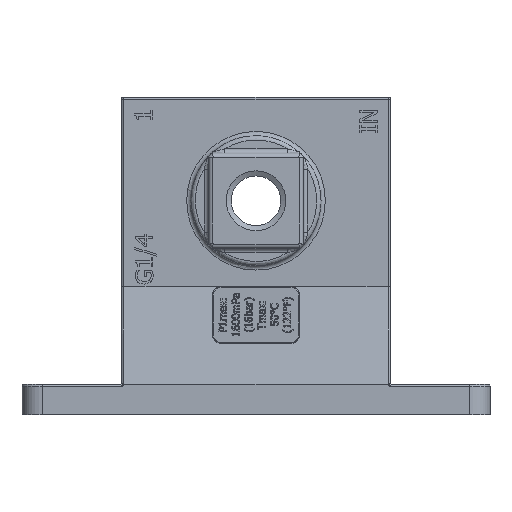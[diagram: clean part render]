
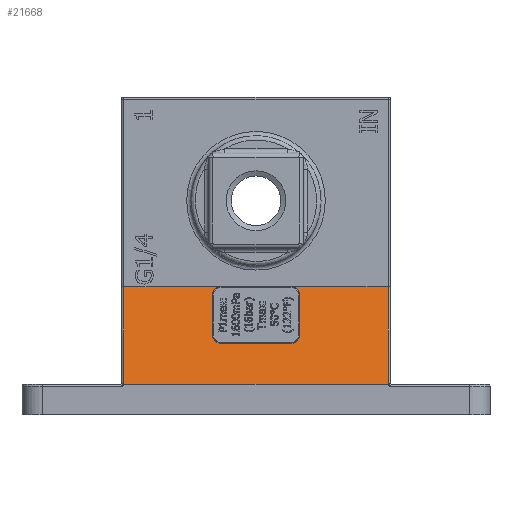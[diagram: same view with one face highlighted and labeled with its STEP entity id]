
A CAD part, front view. The second image highlights one B-rep face of the part: STEP entity #21668.
In plain terms, the highlighted planar face has unit normal (0, -0.978, 0.208).
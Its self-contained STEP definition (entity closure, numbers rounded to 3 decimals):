
#21255=CARTESIAN_POINT('',(-3.396,-6.252,-43.227));
#21256=VERTEX_POINT('',#21255);
#21274=CARTESIAN_POINT('',(-1.9,-6.68,-45.239));
#21275=VERTEX_POINT('',#21274);
#21283=CARTESIAN_POINT('',(-4.,-6.68,-45.239));
#21284=DIRECTION('',(0.,-0.978,0.208));
#21285=DIRECTION('',(0.,0.208,0.978));
#21286=AXIS2_PLACEMENT_3D('',#21283,#21284,#21285);
#21287=ELLIPSE('',#21286,2.147,2.1);
#21288=EDGE_CURVE('',#21275,#21256,#21287,.T.);
#21300=CARTESIAN_POINT('',(-1.9,-8.593,-54.239));
#21301=VERTEX_POINT('',#21300);
#21309=CARTESIAN_POINT('',(-1.9,-8.593,-54.239));
#21310=DIRECTION('',(0.,0.208,0.978));
#21311=VECTOR('',#21310,9.201);
#21312=LINE('',#21309,#21311);
#21313=EDGE_CURVE('',#21301,#21275,#21312,.T.);
#21358=CARTESIAN_POINT('',(-4.,-9.039,-56.339));
#21359=VERTEX_POINT('',#21358);
#21367=CARTESIAN_POINT('',(-4.,-8.593,-54.239));
#21368=DIRECTION('',(0.,-0.978,0.208));
#21369=DIRECTION('',(0.,-0.208,-0.978));
#21370=AXIS2_PLACEMENT_3D('',#21367,#21368,#21369);
#21371=ELLIPSE('',#21370,2.147,2.1);
#21372=EDGE_CURVE('',#21359,#21301,#21371,.T.);
#21392=CARTESIAN_POINT('',(-20.,-9.039,-56.339));
#21393=VERTEX_POINT('',#21392);
#21401=CARTESIAN_POINT('',(-20.,-9.039,-56.339));
#21402=DIRECTION('',(1.0,0.0,0.0));
#21403=VECTOR('',#21402,16.0);
#21404=LINE('',#21401,#21403);
#21405=EDGE_CURVE('',#21393,#21359,#21404,.T.);
#21448=CARTESIAN_POINT('',(-22.1,-8.593,-54.239));
#21449=VERTEX_POINT('',#21448);
#21457=CARTESIAN_POINT('',(-20.0,-8.593,-54.239));
#21458=DIRECTION('',(0.,-0.978,0.208));
#21459=DIRECTION('',(0.,-0.208,-0.978));
#21460=AXIS2_PLACEMENT_3D('',#21457,#21458,#21459);
#21461=ELLIPSE('',#21460,2.147,2.1);
#21462=EDGE_CURVE('',#21449,#21393,#21461,.T.);
#21501=CARTESIAN_POINT('',(-20.604,-6.252,-43.227));
#21502=VERTEX_POINT('',#21501);
#21522=CARTESIAN_POINT('',(-22.1,-6.68,-45.239));
#21523=VERTEX_POINT('',#21522);
#21524=CARTESIAN_POINT('',(-20.0,-6.68,-45.239));
#21525=DIRECTION('',(0.,-0.978,0.208));
#21526=DIRECTION('',(0.,0.208,0.978));
#21527=AXIS2_PLACEMENT_3D('',#21524,#21525,#21526);
#21528=ELLIPSE('',#21527,2.147,2.1);
#21529=EDGE_CURVE('',#21502,#21523,#21528,.T.);
#21548=CARTESIAN_POINT('',(-22.1,-6.68,-45.239));
#21549=DIRECTION('',(0.,-0.208,-0.978));
#21550=VECTOR('',#21549,9.201);
#21551=LINE('',#21548,#21550);
#21552=EDGE_CURVE('',#21523,#21449,#21551,.T.);
#21565=CARTESIAN_POINT('',(-3.36,-6.25,-43.218));
#21566=VERTEX_POINT('',#21565);
#21567=CARTESIAN_POINT('',(-3.36,-6.25,-43.218));
#21568=CARTESIAN_POINT('',(-3.369,-6.25,-43.218));
#21569=CARTESIAN_POINT('',(-3.381,-6.25,-43.218));
#21570=CARTESIAN_POINT('',(-3.391,-6.251,-43.222));
#21571=CARTESIAN_POINT('',(-3.393,-6.251,-43.223));
#21572=CARTESIAN_POINT('',(-3.395,-6.252,-43.225));
#21573=CARTESIAN_POINT('',(-3.396,-6.252,-43.226));
#21574=CARTESIAN_POINT('',(-3.396,-6.252,-43.227));
#21575=CARTESIAN_POINT('',(-3.396,-6.252,-43.227));
#21576=CARTESIAN_POINT('',(-3.396,-6.252,-43.227));
#21577=B_SPLINE_CURVE_WITH_KNOTS('',3,(#21567,#21568,#21569,#21570,#21571,#21572,#21573,#21574,#21575,#21576),.UNSPECIFIED.,.F.,.U.,(4,2,2,2,4),(0.407,0.41,0.41,0.411,0.411),.UNSPECIFIED.);
#21578=EDGE_CURVE('',#21566,#21256,#21577,.T.);
#21600=CARTESIAN_POINT('',(19.,-11.05,-65.8));
#21601=DIRECTION('',(0.,0.978,-0.208));
#21602=DIRECTION('',(-1.0,0.0,0.0));
#21603=AXIS2_PLACEMENT_3D('',#21600,#21601,#21602);
#21604=PLANE('',#21603);
#21605=ORIENTED_EDGE('',*,*,#21288,.F.);
#21606=ORIENTED_EDGE('',*,*,#21313,.F.);
#21607=ORIENTED_EDGE('',*,*,#21372,.F.);
#21608=ORIENTED_EDGE('',*,*,#21405,.F.);
#21609=ORIENTED_EDGE('',*,*,#21462,.F.);
#21610=ORIENTED_EDGE('',*,*,#21552,.F.);
#21611=ORIENTED_EDGE('',*,*,#21529,.F.);
#21612=CARTESIAN_POINT('',(-20.64,-6.25,-43.218));
#21613=VERTEX_POINT('',#21612);
#21614=CARTESIAN_POINT('',(-20.604,-6.252,-43.227));
#21615=CARTESIAN_POINT('',(-20.604,-6.252,-43.227));
#21616=CARTESIAN_POINT('',(-20.604,-6.252,-43.227));
#21617=CARTESIAN_POINT('',(-20.604,-6.252,-43.226));
#21618=CARTESIAN_POINT('',(-20.605,-6.252,-43.225));
#21619=CARTESIAN_POINT('',(-20.607,-6.251,-43.223));
#21620=CARTESIAN_POINT('',(-20.609,-6.251,-43.222));
#21621=CARTESIAN_POINT('',(-20.619,-6.25,-43.218));
#21622=CARTESIAN_POINT('',(-20.631,-6.25,-43.218));
#21623=CARTESIAN_POINT('',(-20.64,-6.25,-43.218));
#21624=B_SPLINE_CURVE_WITH_KNOTS('',3,(#21614,#21615,#21616,#21617,#21618,#21619,#21620,#21621,#21622,#21623),.UNSPECIFIED.,.F.,.U.,(4,2,2,2,4),(0.199,0.199,0.2,0.2,0.203),.UNSPECIFIED.);
#21625=EDGE_CURVE('',#21502,#21613,#21624,.T.);
#21626=ORIENTED_EDGE('',*,*,#21625,.T.);
#21627=CARTESIAN_POINT('',(-42.5,-6.25,-43.218));
#21628=VERTEX_POINT('',#21627);
#21629=CARTESIAN_POINT('',(-20.64,-6.25,-43.218));
#21630=DIRECTION('',(-1.0,0.0,0.0));
#21631=VECTOR('',#21630,21.86);
#21632=LINE('',#21629,#21631);
#21633=EDGE_CURVE('',#21613,#21628,#21632,.T.);
#21634=ORIENTED_EDGE('',*,*,#21633,.T.);
#21635=CARTESIAN_POINT('',(-42.5,-11.05,-65.8));
#21636=VERTEX_POINT('',#21635);
#21637=CARTESIAN_POINT('',(-42.5,-11.05,-65.8));
#21638=DIRECTION('',(0.,0.208,0.978));
#21639=VECTOR('',#21638,23.087);
#21640=LINE('',#21637,#21639);
#21641=EDGE_CURVE('',#21636,#21628,#21640,.T.);
#21642=ORIENTED_EDGE('',*,*,#21641,.F.);
#21643=CARTESIAN_POINT('',(18.5,-11.05,-65.8));
#21644=VERTEX_POINT('',#21643);
#21645=CARTESIAN_POINT('',(18.5,-11.05,-65.8));
#21646=DIRECTION('',(-1.0,0.0,0.0));
#21647=VECTOR('',#21646,61.);
#21648=LINE('',#21645,#21647);
#21649=EDGE_CURVE('',#21644,#21636,#21648,.T.);
#21650=ORIENTED_EDGE('',*,*,#21649,.F.);
#21651=CARTESIAN_POINT('',(18.5,-6.25,-43.218));
#21652=VERTEX_POINT('',#21651);
#21653=CARTESIAN_POINT('',(18.5,-6.25,-43.218));
#21654=DIRECTION('',(0.,-0.208,-0.978));
#21655=VECTOR('',#21654,23.087);
#21656=LINE('',#21653,#21655);
#21657=EDGE_CURVE('',#21652,#21644,#21656,.T.);
#21658=ORIENTED_EDGE('',*,*,#21657,.F.);
#21659=CARTESIAN_POINT('',(18.5,-6.25,-43.218));
#21660=DIRECTION('',(-1.0,0.0,0.0));
#21661=VECTOR('',#21660,21.86);
#21662=LINE('',#21659,#21661);
#21663=EDGE_CURVE('',#21652,#21566,#21662,.T.);
#21664=ORIENTED_EDGE('',*,*,#21663,.T.);
#21665=ORIENTED_EDGE('',*,*,#21578,.T.);
#21666=EDGE_LOOP('',(#21605,#21606,#21607,#21608,#21609,#21610,#21611,#21626,#21634,#21642,#21650,#21658,#21664,#21665));
#21667=FACE_OUTER_BOUND('',#21666,.T.);
#21668=ADVANCED_FACE('',(#21667),#21604,.F.);
